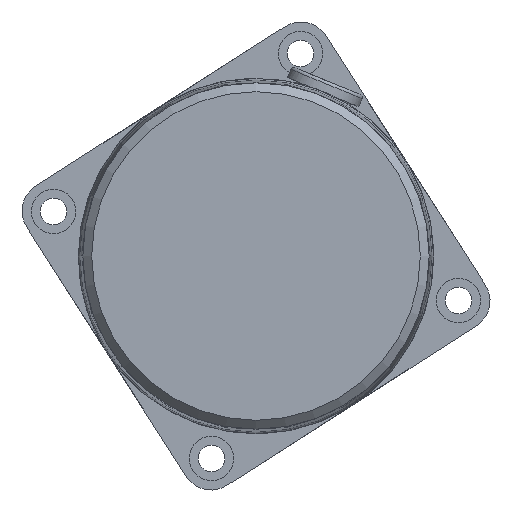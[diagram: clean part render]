
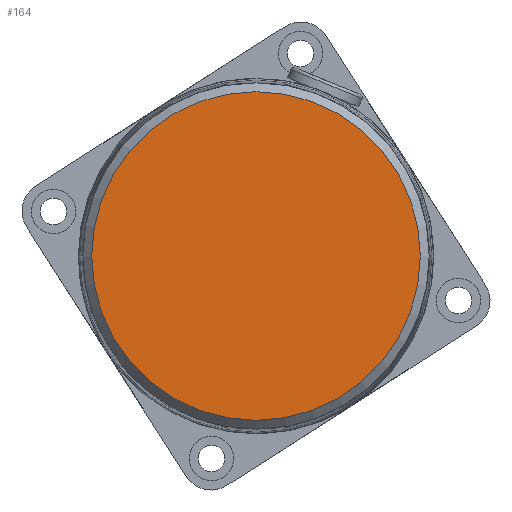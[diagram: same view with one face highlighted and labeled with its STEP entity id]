
A CAD part, left-side view. The second image highlights one B-rep face of the part: STEP entity #164.
In plain terms, the highlighted planar face has unit normal (-1, 0, 0).
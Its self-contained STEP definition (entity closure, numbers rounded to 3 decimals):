
#144=CARTESIAN_POINT('',(0.,27.75,0.0));
#145=VERTEX_POINT('',#144);
#146=CARTESIAN_POINT('',(0.,0.0,0.0));
#147=DIRECTION('',(1.0,0.0,0.0));
#148=DIRECTION('',(0.0,1.0,0.0));
#149=AXIS2_PLACEMENT_3D('',#146,#147,#148);
#150=CIRCLE('',#149,27.75);
#151=EDGE_CURVE('',#145,#145,#150,.T.);
#156=CARTESIAN_POINT('',(0.,13.875,0.0));
#157=DIRECTION('',(-1.0,0.0,0.0));
#158=DIRECTION('',(0.0,0.0,1.0));
#159=AXIS2_PLACEMENT_3D('',#156,#157,#158);
#160=PLANE('',#159);
#161=ORIENTED_EDGE('',*,*,#151,.F.);
#162=EDGE_LOOP('',(#161));
#163=FACE_OUTER_BOUND('',#162,.T.);
#164=ADVANCED_FACE('',(#163),#160,.T.);
